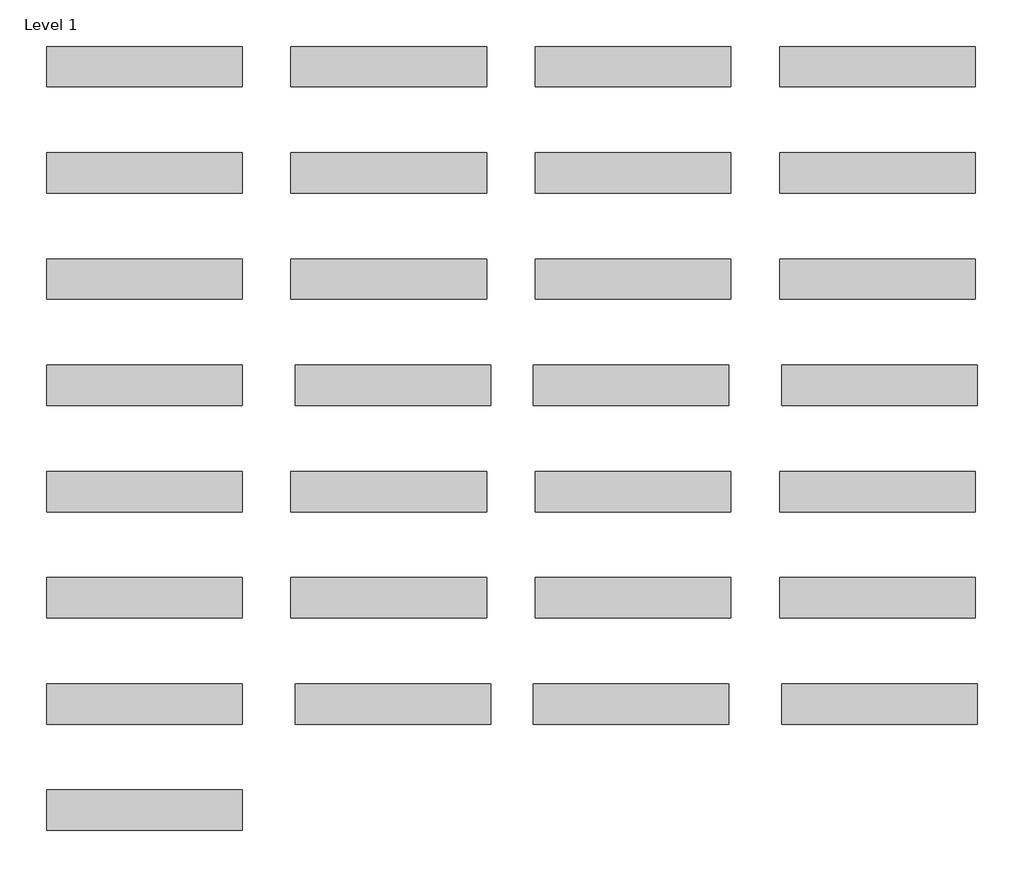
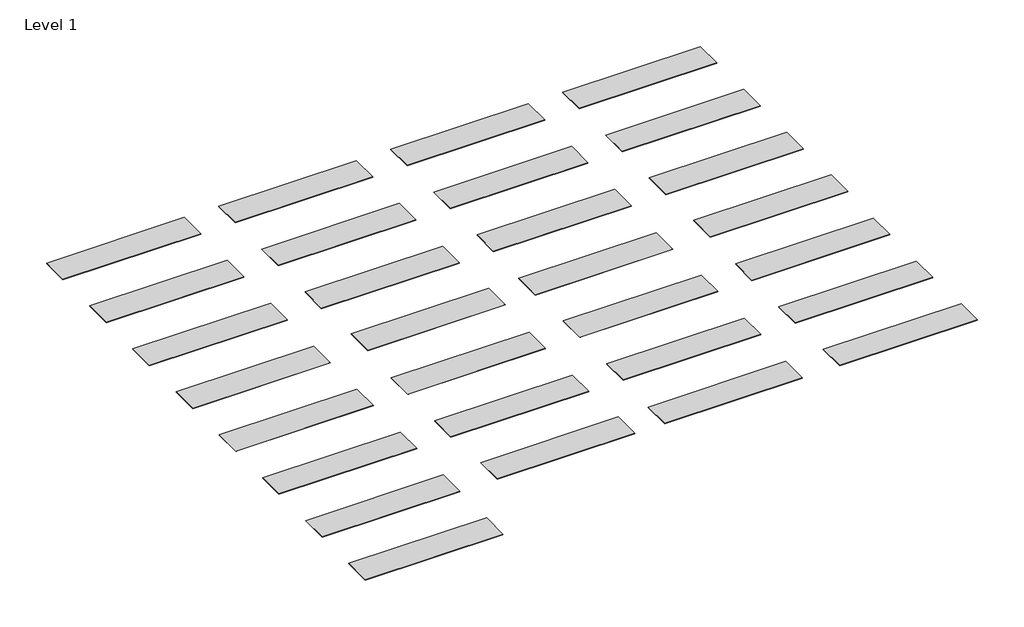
# One storey: 29 proxies.
"""IFC4 building model written with IfcOpenShell, lengths in millimetres."""

from ifc_helpers import new_model, si_unit, origin, place, context, project, spatial, transform, mapped, element, save
from components import generic_models_7f56e2ab

model = new_model("IFC4")

# Units and contexts
model_context = context("Model", 3, world=origin())
ifc_project = project(units=[si_unit("LENGTHUNIT", "METRE", prefix="MILLI")], contexts=[model_context])

# Site, building, storey
site = spatial("IfcSite", under=ifc_project)
building = spatial("IfcBuilding", under=site)
storey = spatial("IfcBuildingStorey", under=building, Name="Level 1", Elevation=0.0)

# Proxies
placement = place(None, origin())
generic_models_shape = generic_models_7f56e2ab(model_context)
element("IfcBuildingElementProxy", 1, Name="Indoor-Material_HI-MACS_Marmo : Natural-Acrylic-Stone_HI-MACS_Marmo_M428-Ispani-12mm", ObjectType="Indoor-Material_HI-MACS_Marmo : Natural-Acrylic-Stone_HI-MACS_Marmo_M428-Ispani-12mm", at=placement, inside=storey, context=model_context, shape_type="MappedRepresentation", body=[
    mapped(generic_models_shape, transform((-21332.0748674, 2227.8111796, 0.0), x_axis=(1.0, 0.0, 0.0), y_axis=(0.0, 1.0, 0.0), z_axis=(0.0, 0.0, 1.0))),
])
element("IfcBuildingElementProxy", 2, Name="Indoor-Material_HI-MACS_Marmo : Natural-Acrylic-Stone_HI-MACS_Marmo_M201-Terni-12mm", ObjectType="Indoor-Material_HI-MACS_Marmo : Natural-Acrylic-Stone_HI-MACS_Marmo_M201-Terni-12mm", at=placement, inside=storey, context=model_context, shape_type="MappedRepresentation", body=[
    mapped(generic_models_shape, transform((-16732.0748674, 2227.8111796, 0.0), x_axis=(1.0, 0.0, 0.0), y_axis=(0.0, 1.0, 0.0), z_axis=(0.0, 0.0, 1.0))),
])
element("IfcBuildingElementProxy", 3, Name="Indoor-Material_HI-MACS_Marmo : Natural-Acrylic-Stone_HI-MACS_Marmo_M303-Capri-12mm", ObjectType="Indoor-Material_HI-MACS_Marmo : Natural-Acrylic-Stone_HI-MACS_Marmo_M303-Capri-12mm", at=placement, inside=storey, context=model_context, shape_type="MappedRepresentation", body=[
    mapped(generic_models_shape, transform((-25932.0748674, 4227.8111796, 0.0), x_axis=(1.0, 0.0, 0.0), y_axis=(0.0, 1.0, 0.0), z_axis=(0.0, 0.0, 1.0))),
])
element("IfcBuildingElementProxy", 4, Name="Indoor-Material_HI-MACS_Marmo : Natural-Acrylic-Stone_HI-MACS_Marmo_M422-Cremona-12mm", ObjectType="Indoor-Material_HI-MACS_Marmo : Natural-Acrylic-Stone_HI-MACS_Marmo_M422-Cremona-12mm", at=placement, inside=storey, context=model_context, shape_type="MappedRepresentation", body=[
    mapped(generic_models_shape, transform((-16732.0748674, 4227.8111796, 0.0), x_axis=(1.0, 0.0, 0.0), y_axis=(0.0, 1.0, 0.0), z_axis=(0.0, 0.0, 1.0))),
])
element("IfcBuildingElementProxy", 5, Name="Indoor-Material_HI-MACS_Marmo : Natural-Acrylic-Stone_HI-MACS_Marmo_M426-Laviano-12mm", ObjectType="Indoor-Material_HI-MACS_Marmo : Natural-Acrylic-Stone_HI-MACS_Marmo_M426-Laviano-12mm", at=placement, inside=storey, context=model_context, shape_type="MappedRepresentation", body=[
    mapped(generic_models_shape, transform((-12132.0748674, 4227.8111796, 0.0), x_axis=(1.0, 0.0, 0.0), y_axis=(0.0, 1.0, 0.0), z_axis=(0.0, 0.0, 1.0))),
])
element("IfcBuildingElementProxy", 6, Name="Indoor-Material_HI-MACS_Marmo : Natural-Acrylic-Stone_HI-MACS_Marmo_M427-Bellizzi-12mm", ObjectType="Indoor-Material_HI-MACS_Marmo : Natural-Acrylic-Stone_HI-MACS_Marmo_M427-Bellizzi-12mm", at=placement, inside=storey, context=model_context, shape_type="MappedRepresentation", body=[
    mapped(generic_models_shape, transform((-21332.0748674, 4227.8111796, 0.0), x_axis=(1.0, 0.0, 0.0), y_axis=(0.0, 1.0, 0.0), z_axis=(0.0, 0.0, 1.0))),
])
element("IfcBuildingElementProxy", 7, Name="Indoor-Material_HI-MACS_Marmo : Natural-Acrylic-Stone_HI-MACS_Marmo_M501-Edessa-12mm", ObjectType="Indoor-Material_HI-MACS_Marmo : Natural-Acrylic-Stone_HI-MACS_Marmo_M501-Edessa-12mm", at=placement, inside=storey, context=model_context, shape_type="MappedRepresentation", body=[
    mapped(generic_models_shape, transform((-25932.0748674, 2227.8111796, 0.0), x_axis=(1.0, 0.0, 0.0), y_axis=(0.0, 1.0, 0.0), z_axis=(0.0, 0.0, 1.0))),
])
element("IfcBuildingElementProxy", 8, Name="Indoor-Material_HI-MACS_Marmo : Natural-Acrylic-Stone_HI-MACS_Marmo_M904-Naples-12mm", ObjectType="Indoor-Material_HI-MACS_Marmo : Natural-Acrylic-Stone_HI-MACS_Marmo_M904-Naples-12mm", at=placement, inside=storey, context=model_context, shape_type="MappedRepresentation", body=[
    mapped(generic_models_shape, transform((-12132.0748674, 2227.8111796, 0.0), x_axis=(1.0, 0.0, 0.0), y_axis=(0.0, 1.0, 0.0), z_axis=(0.0, 0.0, 1.0))),
])
element("IfcBuildingElementProxy", 9, Name="Indoor-Material_HI-MACS_Marmo : Natural Acrylic Stone_HI-MACS_Marmo_M608_Aurora-Grey-12mm", ObjectType="Indoor-Material_HI-MACS_Marmo : Natural Acrylic Stone_HI-MACS_Marmo_M608_Aurora-Grey-12mm", at=placement, inside=storey, context=model_context, shape_type="MappedRepresentation", body=[
    mapped(generic_models_shape, transform((-16732.0748674, 227.8111796, 0.0), x_axis=(1.0000000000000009, 0.0, 0.0), y_axis=(0.0, 1.0000000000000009, 0.0), z_axis=(0.0, 0.0, 1.0))),
])
element("IfcBuildingElementProxy", 10, Name="Indoor-Material_HI-MACS_Marmo : Natural Acrylic Stone_HI-MACS_Marmo_M605_Sanremo-12mm", ObjectType="Indoor-Material_HI-MACS_Marmo : Natural Acrylic Stone_HI-MACS_Marmo_M605_Sanremo-12mm", at=placement, inside=storey, context=model_context, shape_type="MappedRepresentation", body=[
    mapped(generic_models_shape, transform((-12132.0748674, 227.8111796, 0.0), x_axis=(1.0000000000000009, 0.0, 0.0), y_axis=(0.0, 1.0000000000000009, 0.0), z_axis=(0.0, 0.0, 1.0))),
])
element("IfcBuildingElementProxy", 11, Name="Indoor-Material_HI-MACS_Marmo : Natural Acrylic Stone_HI-MACS_Marmo_M603_Pavia-12mm", ObjectType="Indoor-Material_HI-MACS_Marmo : Natural Acrylic Stone_HI-MACS_Marmo_M603_Pavia-12mm", at=placement, inside=storey, context=model_context, shape_type="MappedRepresentation", body=[
    mapped(generic_models_shape, transform((-21332.0748674, 227.8111796, 0.0), x_axis=(1.0, 0.0, 0.0), y_axis=(0.0, 1.0, 0.0), z_axis=(0.0, 0.0, 1.0))),
])
element("IfcBuildingElementProxy", 12, Name="Indoor-Material_HI-MACS_Marmo : Natural Acrylic Stone_HI-MACS_Marmo_M606_Aurora-Bianco-12mm", ObjectType="Indoor-Material_HI-MACS_Marmo : Natural Acrylic Stone_HI-MACS_Marmo_M606_Aurora-Bianco-12mm", at=placement, inside=storey, context=model_context, shape_type="MappedRepresentation", body=[
    mapped(generic_models_shape, transform((-25932.0748674, 227.8111796, 0.0), x_axis=(1.0000000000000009, 0.0, 0.0), y_axis=(0.0, 1.0000000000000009, 0.0), z_axis=(0.0, 0.0, 1.0))),
])
element("IfcBuildingElementProxy", 13, Name="Indoor-Material_HI-MACS_Marmo : Natural Acrylic Stone_HI-MACS_Marmo_M612_Aurora-Bisque-12mm", ObjectType="Indoor-Material_HI-MACS_Marmo : Natural Acrylic Stone_HI-MACS_Marmo_M612_Aurora-Bisque-12mm", at=placement, inside=storey, context=model_context, shape_type="MappedRepresentation", body=[
    mapped(generic_models_shape, transform((-25932.0748674, -1772.1888204, 0.0), x_axis=(1.0000000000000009, 0.0, 0.0), y_axis=(0.0, 1.0000000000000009, 0.0), z_axis=(0.0, 0.0, 1.0))),
])
element("IfcBuildingElementProxy", 14, Name="Indoor-Material_HI-MACS_Marmo : Natural Acrylic Stone_HI-MACS_Marmo_M617_Aurora-Blanc-12mm", ObjectType="Indoor-Material_HI-MACS_Marmo : Natural Acrylic Stone_HI-MACS_Marmo_M617_Aurora-Blanc-12mm", at=placement, inside=storey, context=model_context, shape_type="MappedRepresentation", body=[
    mapped(generic_models_shape, transform((-21252.290677, -1772.1888204, 0.0), x_axis=(1.0000000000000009, 0.0, 0.0), y_axis=(0.0, 1.0000000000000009, 0.0), z_axis=(0.0, 0.0, 1.0))),
])
element("IfcBuildingElementProxy", 15, Name="Indoor-Material_HI-MACS_Marmo : Natural Acrylic Stone_HI-MACS_Marmo_M615_Aurora-Cotton-12mm", ObjectType="Indoor-Material_HI-MACS_Marmo : Natural Acrylic Stone_HI-MACS_Marmo_M615_Aurora-Cotton-12mm", at=placement, inside=storey, context=model_context, shape_type="MappedRepresentation", body=[
    mapped(generic_models_shape, transform((-16772.5064865, -1772.1888204, 0.0), x_axis=(1.0000000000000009, 0.0, 0.0), y_axis=(0.0, 1.0000000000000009, 0.0), z_axis=(0.0, 0.0, 1.0))),
])
element("IfcBuildingElementProxy", 16, Name="Indoor-Material_HI-MACS_Marmo : Natural Acrylic Stone_HI-MACS_Marmo_M601_Aurora-Torano-12mm", ObjectType="Indoor-Material_HI-MACS_Marmo : Natural Acrylic Stone_HI-MACS_Marmo_M601_Aurora-Torano-12mm", at=placement, inside=storey, context=model_context, shape_type="MappedRepresentation", body=[
    mapped(generic_models_shape, transform((-12092.722296, -1772.1888204, 0.0), x_axis=(1.0000000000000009, 0.0, 0.0), y_axis=(0.0, 1.0000000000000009, 0.0), z_axis=(0.0, 0.0, 1.0))),
])
element("IfcBuildingElementProxy", 17, Name="Indoor-Material_HI-MACS_Marmo : Natural Acrylic Stone_HI-MACS_Marmo_M614_Aurora-Umber-12mm", ObjectType="Indoor-Material_HI-MACS_Marmo : Natural Acrylic Stone_HI-MACS_Marmo_M614_Aurora-Umber-12mm", at=placement, inside=storey, context=model_context, shape_type="MappedRepresentation", body=[
    mapped(generic_models_shape, transform((-25932.0748674, -3772.1888204, 0.0), x_axis=(1.0000000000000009, 0.0, 0.0), y_axis=(0.0, 1.0000000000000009, 0.0), z_axis=(0.0, 0.0, 1.0))),
])
element("IfcBuildingElementProxy", 18, Name="Indoor-Material_HI-MACS_Marmo : Natural-Acrylic-Stone_HI-MACS_Marmo_M623-Aurora-Linen-Cream-12mm", ObjectType="Indoor-Material_HI-MACS_Marmo : Natural-Acrylic-Stone_HI-MACS_Marmo_M623-Aurora-Linen-Cream-12mm", at=placement, inside=storey, context=model_context, shape_type="MappedRepresentation", body=[
    mapped(generic_models_shape, transform((-21332.0748674, -3772.1888204, 0.0), x_axis=(1.0, 0.0, 0.0), y_axis=(0.0, 1.0, 0.0), z_axis=(0.0, 0.0, 1.0))),
])
element("IfcBuildingElementProxy", 19, Name="Indoor-Material_HI-MACS_Marmo : Natural-Acrylic-Stone_HI-MACS_Marmo_M624-Aurora-Cocoa-12mm", ObjectType="Indoor-Material_HI-MACS_Marmo : Natural-Acrylic-Stone_HI-MACS_Marmo_M624-Aurora-Cocoa-12mm", at=placement, inside=storey, context=model_context, shape_type="MappedRepresentation", body=[
    mapped(generic_models_shape, transform((-16732.0748674, -3772.1888204, 0.0), x_axis=(1.0, 0.0, 0.0), y_axis=(0.0, 1.0, 0.0), z_axis=(0.0, 0.0, 1.0))),
])
element("IfcBuildingElementProxy", 20, Name="Indoor-Material_HI-MACS_Marmo : Natural-Acrylic-Stone_HI-MACS_Marmo_M625-Aurora-Terra-12mm", ObjectType="Indoor-Material_HI-MACS_Marmo : Natural-Acrylic-Stone_HI-MACS_Marmo_M625-Aurora-Terra-12mm", at=placement, inside=storey, context=model_context, shape_type="MappedRepresentation", body=[
    mapped(generic_models_shape, transform((-12132.0748674, -3772.1888204, 0.0), x_axis=(1.0, 0.0, 0.0), y_axis=(0.0, 1.0, 0.0), z_axis=(0.0, 0.0, 1.0))),
])
element("IfcBuildingElementProxy", 21, Name="Indoor-Material_HI-MACS_Marmo : Natural-Acrylic-Stone_HI-MACS_Marmo_M627-Aurora-Butter-Cream-12mm", ObjectType="Indoor-Material_HI-MACS_Marmo : Natural-Acrylic-Stone_HI-MACS_Marmo_M627-Aurora-Butter-Cream-12mm", at=placement, inside=storey, context=model_context, shape_type="MappedRepresentation", body=[
    mapped(generic_models_shape, transform((-25932.0748674, -5772.1888204, 0.0), x_axis=(1.0, 0.0, 0.0), y_axis=(0.0, 1.0, 0.0), z_axis=(0.0, 0.0, 1.0))),
])
element("IfcBuildingElementProxy", 22, Name="Indoor-Material_HI-MACS_Marmo : Natural-Acrylic-Stone_HI-MACS_Marmo_M701-Aurora-Ecru-12mm", ObjectType="Indoor-Material_HI-MACS_Marmo : Natural-Acrylic-Stone_HI-MACS_Marmo_M701-Aurora-Ecru-12mm", at=placement, inside=storey, context=model_context, shape_type="MappedRepresentation", body=[
    mapped(generic_models_shape, transform((-21332.0748674, -5772.1888204, 0.0), x_axis=(1.0, 0.0, 0.0), y_axis=(0.0, 1.0, 0.0), z_axis=(0.0, 0.0, 1.0))),
])
element("IfcBuildingElementProxy", 23, Name="Indoor-Material_HI-MACS_Marmo : Natural-Acrylic-Stone_HI-MACS_Marmo_M702-Aurora-Frost-12mm", ObjectType="Indoor-Material_HI-MACS_Marmo : Natural-Acrylic-Stone_HI-MACS_Marmo_M702-Aurora-Frost-12mm", at=placement, inside=storey, context=model_context, shape_type="MappedRepresentation", body=[
    mapped(generic_models_shape, transform((-16732.0748674, -5772.1888204, 0.0), x_axis=(1.0, 0.0, 0.0), y_axis=(0.0, 1.0, 0.0), z_axis=(0.0, 0.0, 1.0))),
])
element("IfcBuildingElementProxy", 24, Name="Indoor-Material_HI-MACS_Marmo : Natural-Acrylic-Stone_HI-MACS_Marmo_M703-Aurora-Midnight-12mm", ObjectType="Indoor-Material_HI-MACS_Marmo : Natural-Acrylic-Stone_HI-MACS_Marmo_M703-Aurora-Midnight-12mm", at=placement, inside=storey, context=model_context, shape_type="MappedRepresentation", body=[
    mapped(generic_models_shape, transform((-12132.0748674, -5772.1888204, 0.0), x_axis=(1.0, 0.0, 0.0), y_axis=(0.0, 1.0, 0.0), z_axis=(0.0, 0.0, 1.0))),
])
element("IfcBuildingElementProxy", 25, Name="Indoor-Material_HI-MACS_Marmo : Natural-Acrylic-Stone_HI-MACS_Marmo_M705-Aurora-Canyon-12mm", ObjectType="Indoor-Material_HI-MACS_Marmo : Natural-Acrylic-Stone_HI-MACS_Marmo_M705-Aurora-Canyon-12mm", at=placement, inside=storey, context=model_context, shape_type="MappedRepresentation", body=[
    mapped(generic_models_shape, transform((-25932.0748674, -7772.1888204, 0.0), x_axis=(1.0, 0.0, 0.0), y_axis=(0.0, 1.0, 0.0), z_axis=(0.0, 0.0, 1.0))),
])
element("IfcBuildingElementProxy", 26, Name="Indoor-Material_HI-MACS_Marmo : Natural-Acrylic-Stone_HI-MACS_Marmo_M706-Aurora-Angora-12mm", ObjectType="Indoor-Material_HI-MACS_Marmo : Natural-Acrylic-Stone_HI-MACS_Marmo_M706-Aurora-Angora-12mm", at=placement, inside=storey, context=model_context, shape_type="MappedRepresentation", body=[
    mapped(generic_models_shape, transform((-21252.290677, -7772.1888204, 0.0), x_axis=(1.0, 0.0, 0.0), y_axis=(0.0, 1.0, 0.0), z_axis=(0.0, 0.0, 1.0))),
])
element("IfcBuildingElementProxy", 27, Name="Indoor-Material_HI-MACS_Marmo : Natural-Acrylic-Stone_HI-MACS_Marmo_M707-Aurora-Magnolia-12mm", ObjectType="Indoor-Material_HI-MACS_Marmo : Natural-Acrylic-Stone_HI-MACS_Marmo_M707-Aurora-Magnolia-12mm", at=placement, inside=storey, context=model_context, shape_type="MappedRepresentation", body=[
    mapped(generic_models_shape, transform((-16772.5064865, -7772.1888204, 0.0), x_axis=(1.0, 0.0, 0.0), y_axis=(0.0, 1.0, 0.0), z_axis=(0.0, 0.0, 1.0))),
])
element("IfcBuildingElementProxy", 28, Name="Indoor-Material_HI-MACS_Marmo : Natural-Acrylic-Stone_HI-MACS_Marmo_M708-Aurora-Sable-12mm", ObjectType="Indoor-Material_HI-MACS_Marmo : Natural-Acrylic-Stone_HI-MACS_Marmo_M708-Aurora-Sable-12mm", at=placement, inside=storey, context=model_context, shape_type="MappedRepresentation", body=[
    mapped(generic_models_shape, transform((-12092.722296, -7772.1888204, 0.0), x_axis=(1.0, 0.0, 0.0), y_axis=(0.0, 1.0, 0.0), z_axis=(0.0, 0.0, 1.0))),
])
element("IfcBuildingElementProxy", 29, Name="Indoor-Material_HI-MACS_Marmo : Natural-Acrylic-Stone_HI-MACS_Marmo_M801-Aurora-Calacatta-Luna-12mm", ObjectType="Indoor-Material_HI-MACS_Marmo : Natural-Acrylic-Stone_HI-MACS_Marmo_M801-Aurora-Calacatta-Luna-12mm", at=placement, inside=storey, context=model_context, shape_type="MappedRepresentation", body=[
    mapped(generic_models_shape, transform((-25932.0748674, -9772.1888204, 0.0), x_axis=(1.0, 0.0, 0.0), y_axis=(0.0, 1.0, 0.0), z_axis=(0.0, 0.0, 1.0))),
])

save(model, "model.ifc")
